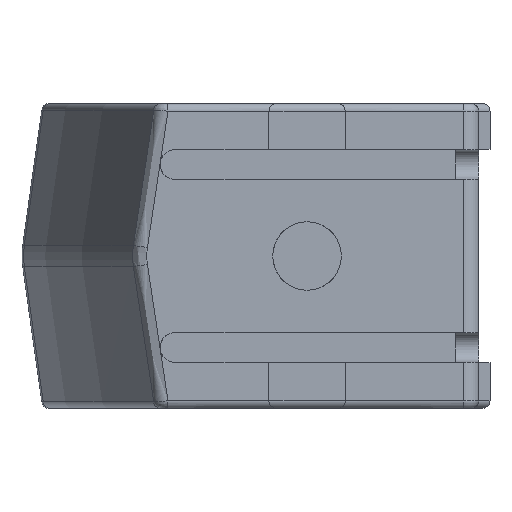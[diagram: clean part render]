
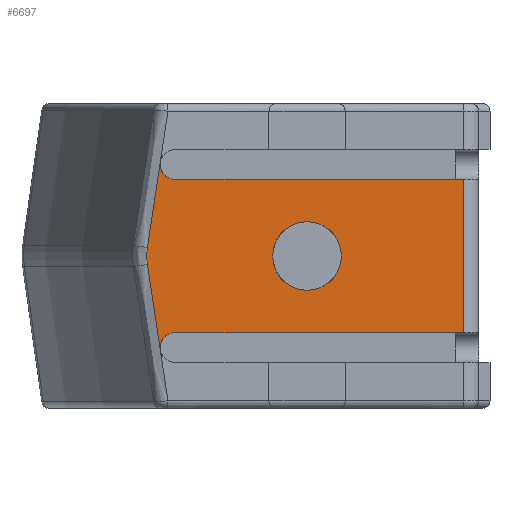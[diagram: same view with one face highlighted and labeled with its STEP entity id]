
A CAD part, front view. The second image highlights one B-rep face of the part: STEP entity #6697.
In plain terms, the highlighted planar face has unit normal (0, -1, 0).
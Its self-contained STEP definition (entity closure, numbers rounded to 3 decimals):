
#28 = CARTESIAN_POINT ( 'NONE',  ( 0.164, -127., 10.05 ) ) ;
#87 = CARTESIAN_POINT ( 'NONE',  ( 0.164, -127., -10.05 ) ) ;
#217 = CARTESIAN_POINT ( 'NONE',  ( -3.448, -127., 1.113 ) ) ;
#248 = ORIENTED_EDGE ( 'NONE', *, *, #1442, .F. ) ;
#317 = CIRCLE ( 'NONE', #6992, 1.95 ) ;
#350 = FACE_OUTER_BOUND ( 'NONE', #2432, .T. ) ;
#404 = VERTEX_POINT ( 'NONE', #4170 ) ;
#494 = CARTESIAN_POINT ( 'NONE',  ( 0.164, -127., -12. ) ) ;
#554 = CARTESIAN_POINT ( 'NONE',  ( -3.56, -127., -0.371 ) ) ;
#766 = CARTESIAN_POINT ( 'NONE',  ( 17.5, -127., 4.5 ) ) ;
#801 = CARTESIAN_POINT ( 'NONE',  ( -4.9, -127., 20. ) ) ;
#909 = AXIS2_PLACEMENT_3D ( 'NONE', #801, #5811, #6367 ) ;
#1063 = CARTESIAN_POINT ( 'NONE',  ( -1.764, -127., -12.291 ) ) ;
#1107 = ORIENTED_EDGE ( 'NONE', *, *, #2751, .T. ) ;
#1133 = CARTESIAN_POINT ( 'NONE',  ( -1.764, -127., 12.291 ) ) ;
#1185 = CARTESIAN_POINT ( 'NONE',  ( 0.164, -127., 12. ) ) ;
#1442 = EDGE_CURVE ( 'NONE', #4153, #5201, #3285, .T. ) ;
#1444 = ORIENTED_EDGE ( 'NONE', *, *, #2361, .F. ) ;
#1529 = EDGE_LOOP ( 'NONE', ( #3395, #1444 ) ) ;
#1686 = CARTESIAN_POINT ( 'NONE',  ( -3.448, -127., 1.113 ) ) ;
#1689 = CARTESIAN_POINT ( 'NONE',  ( -1.764, -127., -12.291 ) ) ;
#1729 = CIRCLE ( 'NONE', #4879, 4.5 ) ;
#1823 = VERTEX_POINT ( 'NONE', #2223 ) ;
#1849 = EDGE_CURVE ( 'NONE', #2669, #6718, #5625, .T. ) ;
#1974 = CARTESIAN_POINT ( 'NONE',  ( 38., -127., 10.05 ) ) ;
#2170 = EDGE_CURVE ( 'NONE', #3154, #4792, #317, .T. ) ;
#2196 = DIRECTION ( 'NONE',  ( 0., -1., 0. ) ) ;
#2223 = CARTESIAN_POINT ( 'NONE',  ( -3.448, -127., -1.113 ) ) ;
#2241 = CARTESIAN_POINT ( 'NONE',  ( 17.5, -127., 0. ) ) ;
#2271 = DIRECTION ( 'NONE',  ( 0., -1., 0. ) ) ;
#2273 = DIRECTION ( 'NONE',  ( 0., -1., 0. ) ) ;
#2300 = EDGE_CURVE ( 'NONE', #1823, #4792, #2921, .T. ) ;
#2361 = EDGE_CURVE ( 'NONE', #4180, #404, #4758, .T. ) ;
#2432 = EDGE_LOOP ( 'NONE', ( #2521, #6273, #6226, #3836, #248, #4269, #1107, #4216 ) ) ;
#2521 = ORIENTED_EDGE ( 'NONE', *, *, #2170, .F. ) ;
#2613 = CARTESIAN_POINT ( 'NONE',  ( -3.56, -127., 0.371 ) ) ;
#2669 = VERTEX_POINT ( 'NONE', #1974 ) ;
#2720 = EDGE_CURVE ( 'NONE', #404, #4180, #1729, .T. ) ;
#2738 = CARTESIAN_POINT ( 'NONE',  ( -2.326, -127., -8.565 ) ) ;
#2751 = EDGE_CURVE ( 'NONE', #4654, #1823, #7071, .T. ) ;
#2825 = FACE_BOUND ( 'NONE', #1529, .T. ) ;
#2834 = DIRECTION ( 'NONE',  ( 0., 0., -1. ) ) ;
#2921 = B_SPLINE_CURVE_WITH_KNOTS ( 'NONE', 3,
 ( #7191, #6110, #2738, #1063 ),
 .UNSPECIFIED., .F., .F.,
 ( 4, 4 ),
 ( 0., 0.011 ),
 .UNSPECIFIED. ) ;
#3002 = CARTESIAN_POINT ( 'NONE',  ( 40., -127., 10.05 ) ) ;
#3154 = VERTEX_POINT ( 'NONE', #87 ) ;
#3285 = CIRCLE ( 'NONE', #4008, 1.95 ) ;
#3350 = CARTESIAN_POINT ( 'NONE',  ( 38., -127., 20. ) ) ;
#3395 = ORIENTED_EDGE ( 'NONE', *, *, #2720, .F. ) ;
#3836 = ORIENTED_EDGE ( 'NONE', *, *, #5322, .F. ) ;
#3883 = CARTESIAN_POINT ( 'NONE',  ( -2.887, -127., 4.839 ) ) ;
#3896 = EDGE_CURVE ( 'NONE', #4153, #4654, #5999, .T. ) ;
#3973 = DIRECTION ( 'NONE',  ( 0., 0., -1. ) ) ;
#4008 = AXIS2_PLACEMENT_3D ( 'NONE', #1185, #2273, #2834 ) ;
#4010 = DIRECTION ( 'NONE',  ( 0., 0., -1. ) ) ;
#4153 = VERTEX_POINT ( 'NONE', #1133 ) ;
#4170 = CARTESIAN_POINT ( 'NONE',  ( 17.5, -127., -4.5 ) ) ;
#4180 = VERTEX_POINT ( 'NONE', #766 ) ;
#4216 = ORIENTED_EDGE ( 'NONE', *, *, #2300, .T. ) ;
#4263 = LINE ( 'NONE', #4433, #4873 ) ;
#4269 = ORIENTED_EDGE ( 'NONE', *, *, #3896, .T. ) ;
#4358 = VECTOR ( 'NONE', #4716, 1000. ) ;
#4433 = CARTESIAN_POINT ( 'NONE',  ( 0.164, -127., -10.05 ) ) ;
#4457 = CARTESIAN_POINT ( 'NONE',  ( -3.448, -127., 1.113 ) ) ;
#4522 = CARTESIAN_POINT ( 'NONE',  ( -1.764, -127., 12.291 ) ) ;
#4654 = VERTEX_POINT ( 'NONE', #217 ) ;
#4716 = DIRECTION ( 'NONE',  ( 1., 0., 0. ) ) ;
#4758 = CIRCLE ( 'NONE', #6617, 4.5 ) ;
#4792 = VERTEX_POINT ( 'NONE', #1689 ) ;
#4873 = VECTOR ( 'NONE', #6688, 1000. ) ;
#4878 = LINE ( 'NONE', #3002, #4358 ) ;
#4879 = AXIS2_PLACEMENT_3D ( 'NONE', #6742, #7113, #5991 ) ;
#5201 = VERTEX_POINT ( 'NONE', #28 ) ;
#5322 = EDGE_CURVE ( 'NONE', #5201, #2669, #4878, .T. ) ;
#5541 = VECTOR ( 'NONE', #4010, 1000. ) ;
#5625 = LINE ( 'NONE', #3350, #5541 ) ;
#5811 = DIRECTION ( 'NONE',  ( 0., 1., 0. ) ) ;
#5828 = PLANE ( 'NONE',  #909 ) ;
#5983 = EDGE_CURVE ( 'NONE', #6718, #3154, #4263, .T. ) ;
#5991 = DIRECTION ( 'NONE',  ( 0., 0., -1. ) ) ;
#5999 = B_SPLINE_CURVE_WITH_KNOTS ( 'NONE', 3,
 ( #4522, #6784, #3883, #1686 ),
 .UNSPECIFIED., .F., .F.,
 ( 4, 4 ),
 ( 0.008, 0.019 ),
 .UNSPECIFIED. ) ;
#6110 = CARTESIAN_POINT ( 'NONE',  ( -2.887, -127., -4.839 ) ) ;
#6226 = ORIENTED_EDGE ( 'NONE', *, *, #1849, .F. ) ;
#6273 = ORIENTED_EDGE ( 'NONE', *, *, #5983, .F. ) ;
#6367 = DIRECTION ( 'NONE',  ( 0., 0., 1. ) ) ;
#6548 = CARTESIAN_POINT ( 'NONE',  ( -3.448, -127., -1.113 ) ) ;
#6617 = AXIS2_PLACEMENT_3D ( 'NONE', #2241, #2271, #3973 ) ;
#6688 = DIRECTION ( 'NONE',  ( -1., 0., 0. ) ) ;
#6697 = ADVANCED_FACE ( 'NONE', ( #2825, #350 ), #5828, .F. ) ;
#6718 = VERTEX_POINT ( 'NONE', #7101 ) ;
#6742 = CARTESIAN_POINT ( 'NONE',  ( 17.5, -127., 0. ) ) ;
#6784 = CARTESIAN_POINT ( 'NONE',  ( -2.326, -127., 8.565 ) ) ;
#6992 = AXIS2_PLACEMENT_3D ( 'NONE', #494, #2196, #7262 ) ;
#7071 = B_SPLINE_CURVE_WITH_KNOTS ( 'NONE', 3,
 ( #4457, #2613, #554, #6548 ),
 .UNSPECIFIED., .F., .F.,
 ( 4, 4 ),
 ( 0., 0.002 ),
 .UNSPECIFIED. ) ;
#7101 = CARTESIAN_POINT ( 'NONE',  ( 38., -127., -10.05 ) ) ;
#7113 = DIRECTION ( 'NONE',  ( 0., -1., 0. ) ) ;
#7191 = CARTESIAN_POINT ( 'NONE',  ( -3.448, -127., -1.113 ) ) ;
#7262 = DIRECTION ( 'NONE',  ( 0., 0., -1. ) ) ;
